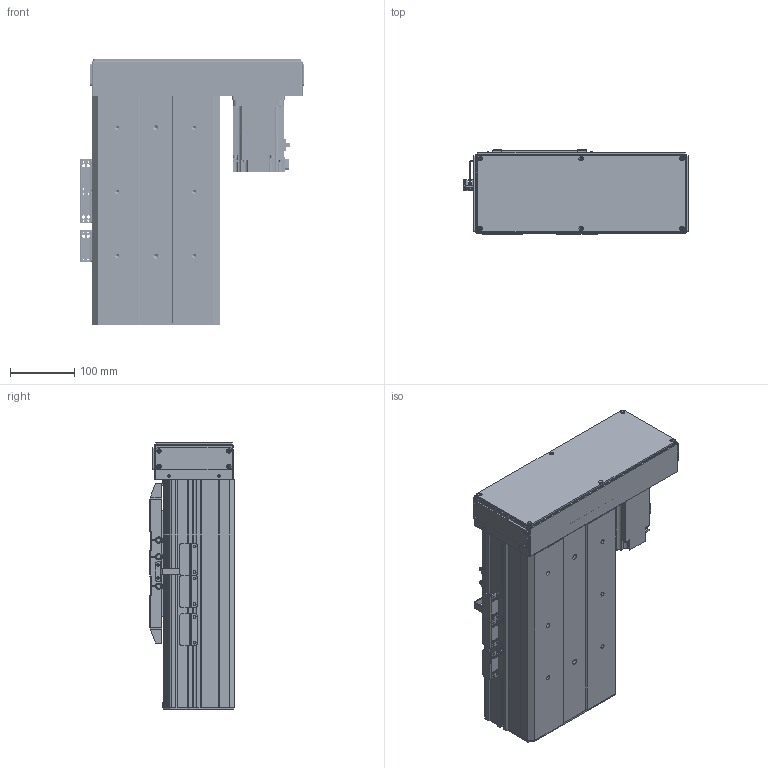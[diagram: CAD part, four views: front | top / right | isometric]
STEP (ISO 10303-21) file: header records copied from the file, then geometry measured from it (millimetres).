
FILE_DESCRIPTION(/* description */ ('MANUFACTURE'),/* implementation_level */ '2;1');
FILE_NAME(/* name */ '\\192.168.0.160\disk1\HAN SHIN Master\B-설계부문\C-표준\B-2024년\BC02-표준도면\+로봇 개선표준도면\표준 승인도 폴더 - 재작업\3D\HC Type\HC200\우병렬\HC200-R70-N-0100-L10.stp',/* time_stamp */ '2024-03-25T10:20:04+09:00',/* author */ ('User'),/* organization */ (''),/* preprocessor_version */ 'ST-DEVELOPER v18.1',/* originating_system */ 'Autodesk Inventor 2022',/* authorisation */ 'LIP');
FILE_SCHEMA (('AUTOMOTIVE_DESIGN { 1 0 10303 214 3 1 1 }'));
Products named in the file (28): HC200-R70-N-0500-L10 - 간소화; HC200 S BASE F - 1100ST; HC90 REAR COVER; HC200 TABLE COVER - 개주; HC200-STEEL SHEET F - 1100ST; LMKE2020 NUT; HR180 FRONT BLOCK; HR120 STOPPER; HC200 TABLE; HR180 FRONT BLOCK_1; HC200 SIDE COVER F - 1100ST; HC140 SHEET PLATE; HC65 TABLE SIDE COVER; M-5UT; M-5H-4; hg-kr73_; 750W MOTOR PLATE; HR200 ACRYL COVER -1; HR200 ACRYL COVER -1_1; HR160 400W LR BELT COVER; HR200 ACRYL COVER -1_2; 화살표; HG200 750W LR MOTOR PLATE_MIR; HC75 SENSOR DOG; SENSOR BRK(EE-SX674A); EE_SX674A; hsr_ftht_A-M6F_grease_nipple_joint; NIPPLE CAP(신규)
Assembly tree (49 placements, depth 2):
  HC200-R70-N-0500-L10 - 간소화
    HC200 S BASE F - 1100ST
    HC90 REAR COVER
    HC200 TABLE COVER - 개주
    HC65 TABLE SIDE COVER  x2
    HC200-STEEL SHEET F - 1100ST
    LMKE2020 NUT
    HR120 STOPPER  x2
    HR180 FRONT BLOCK
    HC200 SIDE COVER F - 1100ST  x2
    HC200 TABLE
    HR180 FRONT BLOCK_1
    HC140 SHEET PLATE  x2
    hsr_ftht_A-M6F_grease_nipple_joint  x5
    NIPPLE CAP(신규)  x5
    M-5UT  x2
    M-5H-4  x4
    hg-kr73_
    750W MOTOR PLATE
    HR200 ACRYL COVER -1
    HR200 ACRYL COVER -1_1
    HR200 ACRYL COVER -1_2  x2
    HR160 400W LR BELT COVER
    화살표  x2
    HG200 750W LR MOTOR PLATE_MIR
    HC75 SENSOR DOG
    SENSOR BRK(EE-SX674A)  x3
    EE_SX674A  x3
Bounding box: 351 x 132 x 416 mm (x, y, z)
Volume: 5106028.5 mm3; surface area: 1415185.5 mm2
Topology: 51 solids, 51 shells, 4347 faces, 11838 edges, 7779 vertices
Faces by surface type: plane 3038, cylinder 875, cone 340, sphere 44, torus 30, bspline 20
Full cylindrical faces by diameter (mm): 1.8 x4, 2 x6, 2.459 x58, 2.5 x6, 3 x16, 3.242 x23, 3.4 x24, 3.5 x12, 4 x6, 4.134 x12, 4.5 x26, 4.917 x29, 5 x26, 5.5 x5, 5.6 x5, 5.9 x4, 6 x11, 6.5 x14, 6.6 x32, 6.647 x16, 6.8 x2, 7 x10, 7.6 x4, 8 x6, 9 x10, 9.5 x1, 10.5 x8, 11 x36, 19 x1, 20 x1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
Entity records: 111917 total; most frequent: CARTESIAN_POINT 20403, ORIENTED_EDGE 18956, DIRECTION 17926, EDGE_CURVE 9478, LINE 7820, VECTOR 7820, VERTEX_POINT 6305, AXIS2_PLACEMENT_3D 5053
